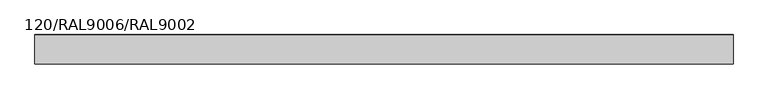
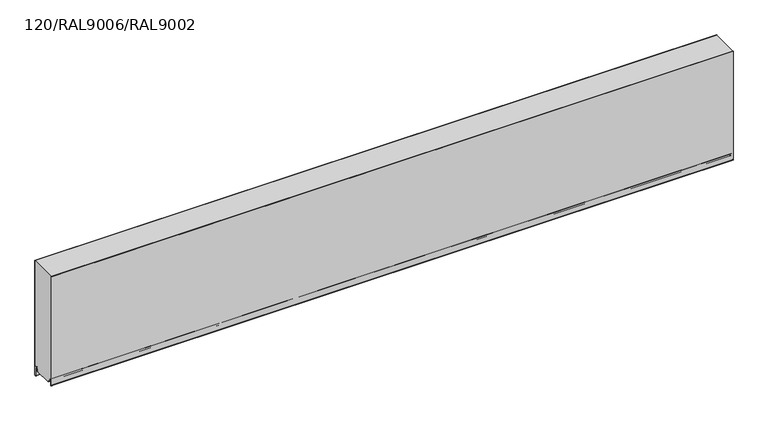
"""IFC4 building model written with IfcOpenShell, lengths in millimetres: plate geometry, TR_C_H_FHL_Panel_cut_GROOVE : 120/RAL9006/RAL9002."""

from ifc_helpers import new_model, si_unit, point, frame, frame_2d, origin, place, context, project, spatial, polyline, circle_curve, trimmed, segment, composite_curve, outline, extrude, source, transform, mapped, element, save


def plate_120_ral9006_ral9002_e90abb7c(model_context):
    return source(origin(), model_context, "Body", "SweptSolid", [
        extrude(outline(composite_curve([segment(polyline([(-0.8, 15.9993484), (-12.3520294, 15.9993484)]), True, "CONTINUOUS"), segment(trimmed(circle_curve(frame_2d((-12.3520294, 11.0993484)), 4.9), [point((-12.3520294, 15.9993484))], [point((-17.2333835, 11.5264116))], True, "CARTESIAN"), True, "CONTINUOUS"), segment(polyline([(-17.2333835, 11.5264116), (-18.0972969, 1.6518352)]), True, "CONTINUOUS"), segment(trimmed(circle_curve(frame_2d((-19.7908279, 1.8)), 1.7), [point((-18.0972969, 1.6518352))], [point((-19.7908279, 0.1))], False, "CARTESIAN"), True, "CONTINUOUS"), segment(polyline([(-19.7908279, 0.1), (-20.8, 0.0), (-94.86, 0.0), (-94.86, 7.9), (-102.3925589, 7.9)]), True, "CONTINUOUS"), segment(trimmed(circle_curve(frame_2d((-102.3925589, 10.85)), 2.95), [point((-102.3925589, 7.9))], [point((-105.2977418, 10.3377379))], False, "CARTESIAN"), True, "CONTINUOUS"), segment(polyline([(-105.2977418, 10.3377379), (-106.364567, 16.3880048)]), True, "CONTINUOUS"), segment(trimmed(circle_curve(frame_2d((-110.55, 15.65)), 4.25), [point((-106.364567, 16.3880048))], [point((-110.55, 19.9))], True, "CARTESIAN"), True, "CONTINUOUS"), segment(polyline([(-110.55, 19.9), (-119.2, 19.9), (-119.2, 480.0), (-0.8, 480.0), (-0.8, 15.9993484)]), True, "CONTINUOUS")], self_intersect=False)), frame((-1370.0, 0.0, 0.0), z_axis=(1.0, 0.0, 0.0), x_axis=(0.0, 1.0, 0.0)), (0.0, 0.0, 1.0), 2850.0),
        extrude(outline(composite_curve([segment(polyline([(-20.8, -0.7), (-20.8, 0.1), (-19.7908279, 0.1)]), True, "CONTINUOUS"), segment(trimmed(circle_curve(frame_2d((-19.7908279, 1.8)), 1.7), [point((-19.7908279, 0.1))], [point((-18.0972969, 1.6518352))], True, "CARTESIAN"), True, "CONTINUOUS"), segment(polyline([(-18.0972969, 1.6518352), (-17.2333835, 11.5264116)]), True, "CONTINUOUS"), segment(trimmed(circle_curve(frame_2d((-12.3520294, 11.0993484)), 4.9), [point((-17.2333835, 11.5264116))], [point((-7.7189884, 12.6946324))], False, "CARTESIAN"), True, "CONTINUOUS"), segment(polyline([(-7.7189884, 12.6946324), (-5.3797887, 5.9011031)]), True, "CONTINUOUS"), segment(trimmed(circle_curve(frame_2d((-8.5, 4.8267282)), 3.3), [point((-5.3797887, 5.9011031))], [point((-5.2, 4.8267282))], False, "CARTESIAN"), True, "CONTINUOUS"), segment(polyline([(-5.2, 4.8267282), (-5.2, -27.5)]), True, "CONTINUOUS"), segment(trimmed(circle_curve(frame_2d((-4.1, -27.5)), 1.1), [point((-5.2, -27.5))], [point((-3.3498018, -28.3044891))], True, "CARTESIAN"), True, "CONTINUOUS"), segment(polyline([(-3.3498018, -28.3044891), (-1.4042031, -26.4901889)]), True, "CONTINUOUS"), segment(trimmed(circle_curve(frame_2d((-2.7, -25.1006169)), 1.9), [point((-1.4042031, -26.4901889))], [point((-0.8, -25.1006169))], True, "CARTESIAN"), True, "CONTINUOUS"), segment(polyline([(-0.8, -25.1006169), (-0.8, 480.0), (0.0, 480.0), (0.0, -25.1006169)]), True, "CONTINUOUS"), segment(trimmed(circle_curve(frame_2d((-2.7, -25.1006169)), 2.7), [point((0.0, -25.1006169))], [point((-0.8586044, -27.0752719))], False, "CARTESIAN"), True, "CONTINUOUS"), segment(polyline([(-0.8586044, -27.0752719), (-2.8042031, -28.889572)]), True, "CONTINUOUS"), segment(trimmed(circle_curve(frame_2d((-4.1, -27.5)), 1.9), [point((-2.8042031, -28.889572))], [point((-6.0, -27.5))], False, "CARTESIAN"), True, "CONTINUOUS"), segment(polyline([(-6.0, -27.5), (-6.0, 4.8267282)]), True, "CONTINUOUS"), segment(trimmed(circle_curve(frame_2d((-8.5, 4.8267282)), 2.5), [point((-6.0, 4.8267282))], [point((-6.1362036, 5.6406486))], True, "CARTESIAN"), True, "CONTINUOUS"), segment(polyline([(-6.1362036, 5.6406486), (-8.4754033, 12.4341779)]), True, "CONTINUOUS"), segment(trimmed(circle_curve(frame_2d((-12.3520294, 11.0993484)), 4.1), [point((-8.4754033, 12.4341779))], [point((-16.4364277, 11.456687))], True, "CARTESIAN"), True, "CONTINUOUS"), segment(polyline([(-16.4364277, 11.456687), (-17.3003412, 1.5821106)]), True, "CONTINUOUS"), segment(trimmed(circle_curve(frame_2d((-19.7908279, 1.8)), 2.5), [point((-17.3003412, 1.5821106))], [point((-19.7908279, -0.7))], False, "CARTESIAN"), True, "CONTINUOUS"), segment(polyline([(-19.7908279, -0.7), (-20.8, -0.7)]), True, "CONTINUOUS")], self_intersect=False)), frame((-1370.0, 0.0, 0.0), z_axis=(1.0, 0.0, 0.0), x_axis=(0.0, 1.0, 0.0)), (0.0, 0.0, 1.0), 2850.0),
        extrude(outline(composite_curve([segment(polyline([(-99.0, 7.1), (-102.3925589, 7.1)]), True, "CONTINUOUS"), segment(trimmed(circle_curve(frame_2d((-102.3925589, 10.85)), 3.75), [point((-102.3925589, 7.1))], [point((-106.085588, 10.1988193))], False, "CARTESIAN"), True, "CONTINUOUS"), segment(polyline([(-106.085588, 10.1988193), (-107.1524133, 16.2490862)]), True, "CONTINUOUS"), segment(trimmed(circle_curve(frame_2d((-110.55, 15.65)), 3.45), [point((-107.1524133, 16.2490862))], [point((-114.0, 15.65))], True, "CARTESIAN"), True, "CONTINUOUS"), segment(polyline([(-114.0, 15.65), (-114.0, -1.95)]), True, "CONTINUOUS"), segment(trimmed(circle_curve(frame_2d((-115.95, -1.95)), 1.95), [point((-114.0, -1.95))], [point((-117.3288582, -3.3288582))], False, "CARTESIAN"), True, "CONTINUOUS"), segment(polyline([(-117.3288582, -3.3288582), (-119.1945436, -1.4631728)]), True, "CONTINUOUS"), segment(trimmed(circle_curve(frame_2d((-117.25, 0.4813708)), 2.75), [point((-119.1945436, -1.4631728))], [point((-120.0, 0.4813708))], False, "CARTESIAN"), True, "CONTINUOUS"), segment(polyline([(-120.0, 0.4813708), (-120.0, 480.0), (-119.2, 480.0), (-119.2, 0.4813708)]), True, "CONTINUOUS"), segment(trimmed(circle_curve(frame_2d((-117.25, 0.4813708)), 1.95), [point((-119.2, 0.4813708))], [point((-118.6288582, -0.8974874))], True, "CARTESIAN"), True, "CONTINUOUS"), segment(polyline([(-118.6288582, -0.8974874), (-116.7631728, -2.7631728)]), True, "CONTINUOUS"), segment(trimmed(circle_curve(frame_2d((-115.95, -1.95)), 1.15), [point((-116.7631728, -2.7631728))], [point((-114.8, -1.95))], True, "CARTESIAN"), True, "CONTINUOUS"), segment(polyline([(-114.8, -1.95), (-114.8, 15.65)]), True, "CONTINUOUS"), segment(trimmed(circle_curve(frame_2d((-110.55, 15.65)), 4.25), [point((-114.8, 15.65))], [point((-106.364567, 16.3880048))], False, "CARTESIAN"), True, "CONTINUOUS"), segment(polyline([(-106.364567, 16.3880048), (-105.2977418, 10.3377379)]), True, "CONTINUOUS"), segment(trimmed(circle_curve(frame_2d((-102.3925589, 10.85)), 2.95), [point((-105.2977418, 10.3377379))], [point((-102.3925589, 7.9))], True, "CARTESIAN"), True, "CONTINUOUS"), segment(polyline([(-102.3925589, 7.9), (-99.0, 7.9), (-99.0, 7.1)]), True, "CONTINUOUS")], self_intersect=False)), frame((-1370.0, 0.0, 0.0), z_axis=(1.0, 0.0, 0.0), x_axis=(0.0, 1.0, 0.0)), (0.0, 0.0, 1.0), 2850.0),
    ])


if __name__ == "__main__":
    model = new_model("IFC4")
    model_context = context("Model", 3, world=origin())
    ifc_project = project(units=[si_unit("LENGTHUNIT", "METRE", prefix="MILLI")], contexts=[model_context])
    site = spatial("IfcSite", under=ifc_project)
    building = spatial("IfcBuilding", under=site)
    placement = place(None, origin())
    plate_120_ral9006_ral9002_shape = plate_120_ral9006_ral9002_e90abb7c(model_context)
    element("IfcPlate", 1, ObjectType="TR_C_H_FHL_Panel_cut_GROOVE : 120/RAL9006/RAL9002", at=placement, inside=building, context=model_context, shape_type="MappedRepresentation", body=[
        mapped(plate_120_ral9006_ral9002_shape, transform((0.0, 0.0, 0.0), x_axis=(1.0, 0.0, 0.0), y_axis=(0.0, 1.0, 0.0), z_axis=(0.0, 0.0, 1.0))),
    ])
    save(model, "model.ifc")
